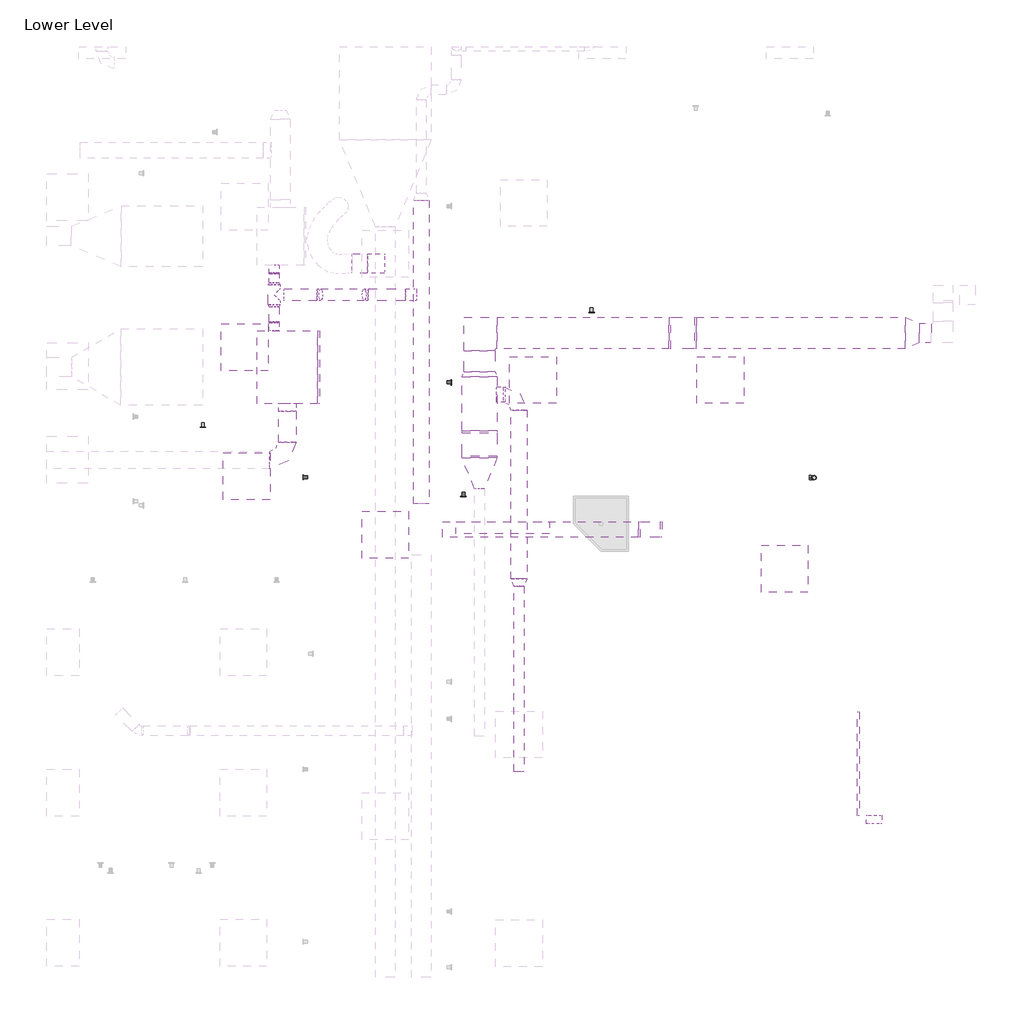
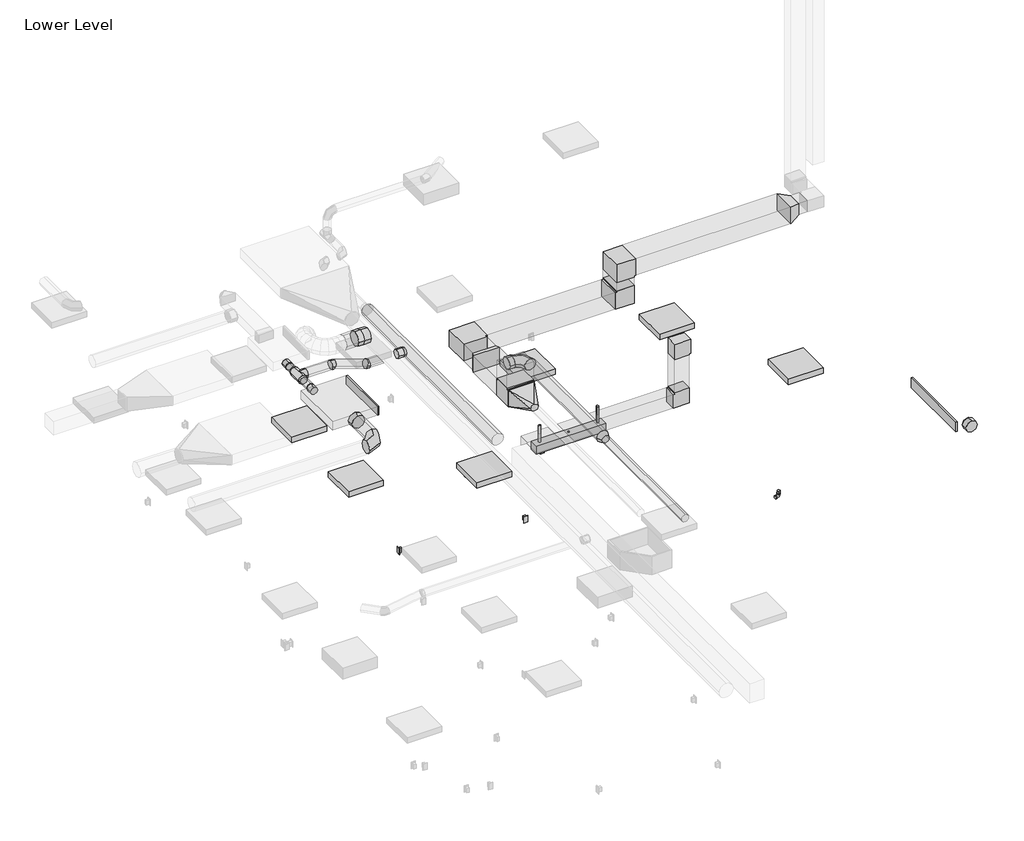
# One storey, part 3 of 5: 26 duct fittings, 20 duct segments, 7 light fixtures, 4 proxies, 3 switching devices, 2 pipe fittings, 2 pipe segments.
"""IFC4 building model written with IfcOpenShell, lengths in millimetres."""

from ifc_helpers import new_model, si_unit, point, frame, frame_2d, origin, place, context, project, spatial, polyline, circle_curve, trimmed, segment, composite_curve, outline, extrude, transform, mapped, element, save
from components import mechanical_equipment_142123ad, duplex_receptacle_countertop_10251bba, rectangular_elbow_mitered_standard_ae316b88, rectangular_elbow_mitered_standard_f09b78ec, rectangular_elbow_mitered_standard_c070aa60, rectangular_endcap_standard_7f0f3a90, rectangular_endcap_standard_3ad2bc23, rectangular_tee_standard_c6e92247, rectangular_transition_angle_45_degree_acf68612, rectangular_transition_angle_45_degree_591ca4bc, rectangular_to_round_transition_angle_45_degree_6a3e0b62, round_elbow_1_d_a253342a, round_elbow_1_d_df495868, round_elbow_1_d_f0624a5f, round_takeoff_standard_db554fbb, round_takeoff_standard_d3b0d0f9, round_takeoff_standard_71c39a53, round_takeoff_standard_1127d77f, round_takeoff_standard_fb854549, round_takeoff_standard_7fe2b2d5, round_takeoff_standard_d952ff4d, round_tee_standard_f7545f24, round_transition_angle_45_degree_f573c4f8, round_transition_angle_45_degree_d7d10bec, suspended_fluorescent_strip_non_hosted_strip_light_1x4_120v_4ea4ccb3, troffer_corner_insert_2x2_3lamp_e67c7f8f, bend_pvc_sch_40_dwv_standard_56513ac6, bend_pvc_sch_40_dwv_standard_1eaeee76

model = new_model("IFC4")

# Units and contexts
model_context = context("Model", 3, world=origin())
ifc_project = project(units=[si_unit("LENGTHUNIT", "METRE", prefix="MILLI")], contexts=[model_context])

# Site, building, storey
site = spatial("IfcSite", under=ifc_project)
building = spatial("IfcBuilding", under=site)
storey = spatial("IfcBuildingStorey", under=building, Name="Lower Level", Elevation=29972.0)

# Proxies
placement = place(None, origin())
mechanical_equipment_shape = mechanical_equipment_142123ad(model_context)
element("IfcBuildingElementProxy", 1, Name="DOAS Supply to Return Connection : DOAS Supply to Return Duct Connection", ObjectType="DOAS Supply to Return Connection : DOAS Supply to Return Duct Connection", at=placement, inside=storey, context=model_context, shape_type="MappedRepresentation", body=[
    mapped(mechanical_equipment_shape, transform((-15051.4068388, 7766.5645797, 33121.6), x_axis=(0.0, -1.0000000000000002, 0.0), y_axis=(1.0000000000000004, 0.0, 0.0), z_axis=(0.0, 0.0, 1.0000000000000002))),
])
element("IfcBuildingElementProxy", 2, Name="DOAS Supply to Return Connection : DOAS Supply to Return Duct Connection", ObjectType="DOAS Supply to Return Connection : DOAS Supply to Return Duct Connection", at=placement, inside=storey, context=model_context, shape_type="MappedRepresentation", body=[
    mapped(mechanical_equipment_shape, transform((-15051.4068388, 7118.1842307, 33121.6), x_axis=(0.0, 1.0000000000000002, 0.0), y_axis=(-1.0000000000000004, 0.0, 0.0), z_axis=(0.0, 0.0, 1.0000000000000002))),
])
duplex_receptacle_countertop_shape = duplex_receptacle_countertop_10251bba(model_context)
element("IfcBuildingElementProxy", 3, Name="Duplex Receptacle : GFCI", ObjectType="Duplex Receptacle : GFCI", at=placement, inside=storey, context=model_context, shape_type="MappedRepresentation", body=[
    mapped(duplex_receptacle_countertop_shape, transform((-10921.2162946, 7255.8695005, 30429.2), x_axis=(1.0, 0.0, 0.0), y_axis=(0.0, 0.0, 1.0), z_axis=(0.0, -1.0, 0.0))),
])
element("IfcBuildingElementProxy", 4, Name="Duplex Receptacle : Standard", ObjectType="Duplex Receptacle : Standard", at=placement, inside=storey, context=model_context, shape_type="MappedRepresentation", body=[
    mapped(duplex_receptacle_countertop_shape, transform((-15979.1685758, 5760.4445005, 30429.2), x_axis=(1.0, 0.0, 0.0), y_axis=(0.0, 0.0, 1.0), z_axis=(0.0, -1.0, 0.0))),
])

# Duct fittings
rectangular_elbow_mitered_standard_shape = rectangular_elbow_mitered_standard_ae316b88(model_context)
element("IfcDuctFitting", 5, ObjectType="Rectangular Elbow - Mitered : Standard", at=placement, inside=storey, context=model_context, shape_type="MappedRepresentation", body=[
    mapped(rectangular_elbow_mitered_standard_shape, transform((-12379.8126806, 6984.6293332, 33121.6), x_axis=(-1.0, 0.0, 0.0), y_axis=(0.0, -1.0, 0.0), z_axis=(0.0, 0.0, 1.0))),
])
rectangular_elbow_mitered_standard_2_shape = rectangular_elbow_mitered_standard_f09b78ec(model_context)
element("IfcDuctFitting", 6, ObjectType="Rectangular Elbow - Mitered : Standard", at=placement, inside=storey, context=model_context, shape_type="MappedRepresentation", body=[
    mapped(rectangular_elbow_mitered_standard_2_shape, transform((-10160.5055151, 4430.1195005, 33807.4), x_axis=(0.0, 0.0, 1.0), y_axis=(1.0, 0.0, 0.0), z_axis=(0.0, 1.0, 0.0))),
])
element("IfcDuctFitting", 7, ObjectType="Rectangular Elbow - Mitered : Standard", at=placement, inside=storey, context=model_context, shape_type="MappedRepresentation", body=[
    mapped(rectangular_elbow_mitered_standard_2_shape, transform((-10160.5055151, 4430.1195005, 32893.0), x_axis=(0.0, 0.0, -1.0), y_axis=(-1.0, 0.0, 0.0), z_axis=(0.0, 1.0, 0.0))),
])
rectangular_elbow_mitered_standard_3_shape = rectangular_elbow_mitered_standard_c070aa60(model_context)
element("IfcDuctFitting", 8, ObjectType="Rectangular Elbow - Mitered : Standard", at=placement, inside=storey, context=model_context, shape_type="MappedRepresentation", body=[
    mapped(rectangular_elbow_mitered_standard_3_shape, transform((-9738.2126806, 6984.6293332, 33121.6), x_axis=(1.0, 0.0, 0.0), y_axis=(0.0, 0.0, 1.0), z_axis=(0.0, -1.0, 0.0))),
])
element("IfcDuctFitting", 9, ObjectType="Rectangular Elbow - Mitered : Standard", at=placement, inside=storey, context=model_context, shape_type="MappedRepresentation", body=[
    mapped(rectangular_elbow_mitered_standard_3_shape, transform((-9738.2126806, 6984.6293332, 33629.6), x_axis=(0.0, 0.0, 1.0), y_axis=(1.0, 0.0, 0.0), z_axis=(0.0, 1.0, 0.0))),
])
rectangular_endcap_standard_shape = rectangular_endcap_standard_7f0f3a90(model_context)
element("IfcDuctFitting", 10, ObjectType="Rectangular Endcap : Standard", at=placement, inside=storey, context=model_context, shape_type="MappedRepresentation", body=[
    mapped(rectangular_endcap_standard_shape, transform((-14487.4337032, 6541.2842307, 33121.5384965), x_axis=(1.0, 0.0, 0.0), y_axis=(0.0, 1.0, 0.0), z_axis=(0.0, 0.0, 1.0))),
])
rectangular_endcap_standard_2_shape = rectangular_endcap_standard_3ad2bc23(model_context)
element("IfcDuctFitting", 11, ObjectType="Rectangular Endcap : Standard", at=placement, inside=storey, context=model_context, shape_type="MappedRepresentation", body=[
    mapped(rectangular_endcap_standard_2_shape, transform((-7438.8450089, 1382.1195005, 33617.69375), x_axis=(-1.0, 0.0, 0.0), y_axis=(0.0, -1.0, 0.0), z_axis=(0.0, 0.0, 1.0))),
])
rectangular_tee_standard_shape = rectangular_tee_standard_c6e92247(model_context)
element("IfcDuctFitting", 12, ObjectType="Rectangular Tee : Standard", at=placement, inside=storey, context=model_context, shape_type="MappedRepresentation", body=[
    mapped(rectangular_tee_standard_shape, transform((-12379.8126806, 5536.8293332, 33121.6), x_axis=(0.0, 1.0, 0.0), y_axis=(0.0, 0.0, -1.0), z_axis=(-1.0, 0.0, 0.0))),
])
rectangular_transition_angle_45_degree_shape = rectangular_transition_angle_45_degree_acf68612(model_context)
element("IfcDuctFitting", 13, ObjectType="Rectangular Transition - Angle : 45 Degree", at=placement, inside=storey, context=model_context, shape_type="MappedRepresentation", body=[
    mapped(rectangular_transition_angle_45_degree_shape, transform((-12379.8126806, 6479.8043332, 33121.6), x_axis=(0.0, -1.0, 0.0), y_axis=(1.0, 0.0, 0.0), z_axis=(0.0, 0.0, 1.0))),
])
rectangular_transition_angle_45_degree_2_shape = rectangular_transition_angle_45_degree_591ca4bc(model_context)
element("IfcDuctFitting", 14, ObjectType="Rectangular Transition - Angle : 45 Degree", at=placement, inside=storey, context=model_context, shape_type="MappedRepresentation", body=[
    mapped(rectangular_transition_angle_45_degree_2_shape, transform((-6842.6126806, 6984.6293332, 33629.6), x_axis=(1.0, 0.0, 0.0), y_axis=(0.0, 1.0, 0.0), z_axis=(0.0, 0.0, 1.0))),
])
rectangular_to_round_transition_angle_45_degree_shape = rectangular_to_round_transition_angle_45_degree_6a3e0b62(model_context)
element("IfcDuctFitting", 15, ObjectType="Rectangular to Round Transition - Angle : 45 Degree", at=placement, inside=storey, context=model_context, shape_type="MappedRepresentation", body=[
    mapped(rectangular_to_round_transition_angle_45_degree_shape, transform((-12379.8126806, 5359.0293332, 33121.6), x_axis=(0.0, -1.0, 0.0), y_axis=(0.0, 0.0, 1.0), z_axis=(-1.0, 0.0, 0.0))),
])
round_elbow_1_d_shape = round_elbow_1_d_a253342a(model_context)
element("IfcDuctFitting", 16, ObjectType="Round Elbow : 1 D", at=placement, inside=storey, context=model_context, shape_type="MappedRepresentation", body=[
    mapped(round_elbow_1_d_shape, transform((-11866.4513201, 6182.7195005, 33121.6), x_axis=(0.0, 1.0, 0.0), y_axis=(-1.0, 0.0, 0.0), z_axis=(0.0, 0.0, 1.0))),
])
round_elbow_1_d_2_shape = round_elbow_1_d_df495868(model_context)
element("IfcDuctFitting", 17, ObjectType="Round Elbow : 1 D", at=placement, inside=storey, context=model_context, shape_type="MappedRepresentation", body=[
    mapped(round_elbow_1_d_2_shape, transform((-14881.1337028, 5334.9945005, 33121.6), x_axis=(1.0, 0.0, 0.0), y_axis=(0.0, 1.0, 0.0), z_axis=(0.0, 0.0, 1.0))),
])
round_elbow_1_d_3_shape = round_elbow_1_d_f0624a5f(model_context)
element("IfcDuctFitting", 18, ObjectType="Round Elbow : 1 D", at=placement, inside=storey, context=model_context, shape_type="MappedRepresentation", body=[
    mapped(round_elbow_1_d_3_shape, transform((-14469.5500833, 7481.5106674, 33121.6), x_axis=(1.0, 0.0, 0.0), y_axis=(0.0, 0.0, -1.0), z_axis=(0.0, 1.0, 0.0))),
])
element("IfcDuctFitting", 19, ObjectType="Round Elbow : 1 D", at=placement, inside=storey, context=model_context, shape_type="MappedRepresentation", body=[
    mapped(round_elbow_1_d_3_shape, transform((-13857.8903997, 7481.5106674, 32918.4), x_axis=(0.9490023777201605, 0.0, -0.31526891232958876), y_axis=(0.31526891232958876, 0.0, 0.9490023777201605), z_axis=(0.0, -1.0, 0.0))),
])
round_takeoff_standard_shape = round_takeoff_standard_db554fbb(model_context)
element("IfcDuctFitting", 20, ObjectType="Round Takeoff : Standard", at=placement, inside=storey, context=model_context, shape_type="MappedRepresentation", body=[
    mapped(round_takeoff_standard_shape, transform((-13240.144811, 7481.5106674, 32918.4), x_axis=(-1.0, 0.0, 0.0), y_axis=(0.0, 1.0, 0.0), z_axis=(0.0, 0.0, -1.0))),
])
round_takeoff_standard_2_shape = round_takeoff_standard_d3b0d0f9(model_context)
element("IfcDuctFitting", 21, ObjectType="Round Takeoff : Standard", at=placement, inside=storey, context=model_context, shape_type="MappedRepresentation", body=[
    mapped(round_takeoff_standard_2_shape, transform((-7247.6134283, 704.2570005, 33617.69375), x_axis=(0.0, -1.0, 0.0), y_axis=(-1.0, 0.0, 0.0), z_axis=(0.0, 0.0, -1.0))),
])
round_takeoff_standard_3_shape = round_takeoff_standard_71c39a53(model_context)
element("IfcDuctFitting", 22, ObjectType="Round Takeoff : Standard", at=placement, inside=storey, context=model_context, shape_type="MappedRepresentation", body=[
    mapped(round_takeoff_standard_3_shape, transform((-14881.1337028, 6065.9842307, 33121.6), x_axis=(0.0, -1.0, 0.0), y_axis=(-1.0, 0.0, 0.0), z_axis=(0.0, 0.0, -1.0))),
])
round_takeoff_standard_4_shape = round_takeoff_standard_1127d77f(model_context)
element("IfcDuctFitting", 23, ObjectType="Round Takeoff : Standard", at=placement, inside=storey, context=model_context, shape_type="MappedRepresentation", body=[
    mapped(round_takeoff_standard_4_shape, transform((-12151.2126806, 6182.7195005, 33121.6), x_axis=(1.0, 0.0, 0.0), y_axis=(0.0, -1.0, 0.0), z_axis=(0.0, 0.0, -1.0))),
])
round_takeoff_standard_5_shape = round_takeoff_standard_fb854549(model_context)
element("IfcDuctFitting", 24, ObjectType="Round Takeoff : Standard", at=placement, inside=storey, context=model_context, shape_type="MappedRepresentation", body=[
    mapped(round_takeoff_standard_5_shape, transform((-15051.4068388, 7868.1645797, 33121.6), x_axis=(0.0, -1.0, 0.0), y_axis=(-1.0, 0.0, 0.0), z_axis=(0.0, 0.0, -1.0))),
])
round_takeoff_standard_6_shape = round_takeoff_standard_7fe2b2d5(model_context)
element("IfcDuctFitting", 25, ObjectType="Round Takeoff : Standard", at=placement, inside=storey, context=model_context, shape_type="MappedRepresentation", body=[
    mapped(round_takeoff_standard_6_shape, transform((-15051.4068388, 7016.5842307, 33121.6), x_axis=(0.0, 1.0, 0.0), y_axis=(1.0, 0.0, 0.0), z_axis=(0.0, 0.0, -1.0))),
])
round_takeoff_standard_7_shape = round_takeoff_standard_d952ff4d(model_context)
element("IfcDuctFitting", 26, ObjectType="Round Takeoff : Standard", at=placement, inside=storey, context=model_context, shape_type="MappedRepresentation", body=[
    mapped(round_takeoff_standard_7_shape, transform((-13732.5079603, 7890.6991771, 33125.8664063), x_axis=(-1.0, 0.0, 0.0), y_axis=(0.0, 1.0, 0.0), z_axis=(0.0, 0.0, -1.0))),
])
round_tee_standard_shape = round_tee_standard_f7545f24(model_context)
element("IfcDuctFitting", 27, ObjectType="Round Tee : Standard", at=placement, inside=storey, context=model_context, shape_type="MappedRepresentation", body=[
    mapped(round_tee_standard_shape, transform((-15051.4068388, 7481.5106674, 33121.6), x_axis=(0.0, 1.0, 0.0), y_axis=(-1.0, 0.0, 0.0), z_axis=(0.0, 0.0, 1.0))),
])
round_transition_angle_45_degree_shape = round_transition_angle_45_degree_f573c4f8(model_context)
element("IfcDuctFitting", 28, ObjectType="Round Transition - Angle : 45 Degree", at=placement, inside=storey, context=model_context, shape_type="MappedRepresentation", body=[
    mapped(round_transition_angle_45_degree_shape, transform((-15051.4068388, 7608.5106674, 33121.6), x_axis=(0.0, 1.0, 0.0), y_axis=(-1.0, 0.0, 0.0), z_axis=(0.0, 0.0, 1.0))),
])
element("IfcDuctFitting", 29, ObjectType="Round Transition - Angle : 45 Degree", at=placement, inside=storey, context=model_context, shape_type="MappedRepresentation", body=[
    mapped(round_transition_angle_45_degree_shape, transform((-15051.4068388, 7354.5106674, 33121.6), x_axis=(0.0, -1.0, 0.0), y_axis=(1.0, 0.0, 0.0), z_axis=(0.0, 0.0, 1.0))),
])
round_transition_angle_45_degree_2_shape = round_transition_angle_45_degree_d7d10bec(model_context)
element("IfcDuctFitting", 30, ObjectType="Round Transition - Angle : 45 Degree", at=placement, inside=storey, context=model_context, shape_type="MappedRepresentation", body=[
    mapped(round_transition_angle_45_degree_2_shape, transform((-11866.4513201, 3785.5010372, 33121.6), x_axis=(0.0, -1.0, 0.0), y_axis=(1.0, 0.0, 0.0), z_axis=(0.0, 0.0, 1.0))),
])

# Duct segments
element("IfcDuctSegment", 31, ObjectType="Mitered Elbows / Taps", at=placement, inside=storey, context=model_context, shape_type="SweptSolid", body=[
    extrude(outline(polyline([(-14487.4337032, 7016.5842307), (-14487.4337032, 6065.9842307), (-15274.8337025, 6065.9842307), (-15274.8337025, 7016.5842307), (-14487.4337032, 7016.5842307)])), frame((0.0, 0.0, 33041.6177934), z_axis=(0.0, 0.0, 1.0), x_axis=(1.0, 0.0, 0.0)), (0.0, 0.0, 1.0), 159.8414063),
])
element("IfcDuctSegment", 32, ObjectType="Mitered Elbows / Taps", at=placement, inside=storey, context=model_context, shape_type="SweptSolid", body=[
    extrude(outline(polyline([(-12176.6126806, 6479.8043332), (-12583.0126806, 6479.8043332), (-12583.0126806, 6756.0293332), (-12176.6126806, 6756.0293332), (-12176.6126806, 6479.8043332)])), frame((0.0, 0.0, 32969.2), z_axis=(0.0, 0.0, 1.0), x_axis=(1.0, 0.0, 0.0)), (0.0, 0.0, 1.0), 304.8),
])
element("IfcDuctSegment", 33, ObjectType="Mitered Elbows / Taps", at=placement, inside=storey, context=model_context, shape_type="SweptSolid", body=[
    extrude(outline(polyline([(-12151.2126806, 6781.4293332), (-12151.2126806, 7187.8293332), (-9916.0126806, 7187.8293332), (-9916.0126806, 6781.4293332), (-12151.2126806, 6781.4293332)])), frame((0.0, 0.0, 32969.2), z_axis=(0.0, 0.0, 1.0), x_axis=(1.0, 0.0, 0.0)), (0.0, 0.0, 1.0), 304.8),
])
element("IfcDuctSegment", 34, ObjectType="Mitered Elbows / Taps", at=placement, inside=storey, context=model_context, shape_type="SweptSolid", body=[
    extrude(outline(polyline([(-12151.2126806, 5714.6293332), (-12608.4126806, 5714.6293332), (-12608.4126806, 6418.4833087), (-12151.2126806, 6418.4833087), (-12151.2126806, 5714.6293332)])), frame((0.0, 0.0, 32969.2), z_axis=(0.0, 0.0, 1.0), x_axis=(1.0, 0.0, 0.0)), (0.0, 0.0, 1.0), 304.8),
])
element("IfcDuctSegment", 35, ObjectType="Mitered Elbows / Taps", at=placement, inside=storey, context=model_context, shape_type="SweptSolid", body=[
    extrude(outline(polyline([(-10312.9055151, 4531.7195005), (-10312.9055151, 4328.5195005), (-12859.144811, 4328.5195005), (-12859.144811, 4531.7195005), (-10312.9055151, 4531.7195005)])), frame((0.0, 0.0, 32766.0), z_axis=(0.0, 0.0, 1.0), x_axis=(1.0, 0.0, 0.0)), (0.0, 0.0, 1.0), 254.0),
])
element("IfcDuctSegment", 36, ObjectType="Mitered Elbows / Taps", at=placement, inside=storey, context=model_context, shape_type="SweptSolid", body=[
    extrude(outline(polyline([(-10033.5055151, 4531.7195005), (-10033.5055151, 4328.5195005), (-10287.5055151, 4328.5195005), (-10287.5055151, 4531.7195005), (-10033.5055151, 4531.7195005)])), frame((0.0, 0.0, 33045.4), z_axis=(0.0, 0.0, 1.0), x_axis=(1.0, 0.0, 0.0)), (0.0, 0.0, 1.0), 609.6),
])
element("IfcDuctSegment", 37, ObjectType="Mitered Elbows / Taps", at=placement, inside=storey, context=model_context, shape_type="SweptSolid", body=[
    extrude(outline(polyline([(-9585.8126806, 7187.8293332), (-9585.8126806, 6781.4293332), (-9890.6126806, 6781.4293332), (-9890.6126806, 7187.8293332), (-9585.8126806, 7187.8293332)])), frame((0.0, 0.0, 33299.4), z_axis=(0.0, 0.0, 1.0), x_axis=(1.0, 0.0, 0.0)), (0.0, 0.0, 1.0), 152.4),
])
element("IfcDuctSegment", 38, ObjectType="Mitered Elbows / Taps", at=placement, inside=storey, context=model_context, shape_type="SweptSolid", body=[
    extrude(outline(polyline([(-9560.4126806, 6781.4293332), (-9560.4126806, 7187.8293332), (-6842.6126806, 7187.8293332), (-6842.6126806, 6781.4293332), (-9560.4126806, 6781.4293332)])), frame((0.0, 0.0, 33477.2), z_axis=(0.0, 0.0, 1.0), x_axis=(1.0, 0.0, 0.0)), (0.0, 0.0, 1.0), 304.8),
])
element("IfcDuctSegment", 39, ObjectType="Mitered Elbows / Taps", at=placement, inside=storey, context=model_context, shape_type="SweptSolid", body=[
    extrude(outline(polyline([(-6658.6496071, 6857.6293332), (-6658.6496071, 7111.6293332), (-6499.7126806, 7111.6293332), (-6499.7126806, 6857.6293332), (-6658.6496071, 6857.6293332)])), frame((0.0, 0.0, 33528.0), z_axis=(0.0, 0.0, 1.0), x_axis=(1.0, 0.0, 0.0)), (0.0, 0.0, 1.0), 203.2),
])
element("IfcDuctSegment", 40, ObjectType="Mitered Elbows / Taps", at=placement, inside=storey, context=model_context, shape_type="SweptSolid", body=[
    extrude(outline(polyline([(-12151.2126806, 5384.4293332), (-12608.4126806, 5384.4293332), (-12608.4126806, 5689.2293332), (-12151.2126806, 5689.2293332), (-12151.2126806, 5384.4293332)])), frame((0.0, 0.0, 33299.4), z_axis=(0.0, 0.0, 1.0), x_axis=(1.0, 0.0, 0.0)), (0.0, 0.0, 1.0), 330.2),
])
element("IfcDuctSegment", 41, ObjectType="Taps / Short Radius", at=placement, inside=storey, context=model_context, shape_type="SweptSolid", body=[
    extrude(outline(composite_curve([segment(trimmed(circle_curve(frame_2d((33121.6, -14881.1337028)), 114.3), [point((33121.6, -14995.4337028))], [point((33007.3, -14881.1337028))], False, "CARTESIAN"), True, "CONTINUOUS"), segment(trimmed(circle_curve(frame_2d((33121.6, -14881.1337028)), 114.3), [point((33007.3, -14881.1337028))], [point((33121.6, -14766.8337028))], False, "CARTESIAN"), True, "CONTINUOUS"), segment(trimmed(circle_curve(frame_2d((33121.6, -14881.1337028)), 114.3), [point((33121.6, -14766.8337028))], [point((33235.9, -14881.1337028))], False, "CARTESIAN"), True, "CONTINUOUS"), segment(trimmed(circle_curve(frame_2d((33121.6, -14881.1337028)), 114.3), [point((33235.9, -14881.1337028))], [point((33121.6, -14995.4337028))], False, "CARTESIAN"), True, "CONTINUOUS")], self_intersect=False)), frame((0.0, 5563.5945005, 0.0), z_axis=(0.0, 1.0, 0.0), x_axis=(0.0, 0.0, 1.0)), (0.0, 0.0, 1.0), 400.7897302),
])
element("IfcDuctSegment", 42, ObjectType="Taps / Short Radius", at=placement, inside=storey, context=model_context, shape_type="SweptSolid", body=[
    extrude(outline(composite_curve([segment(trimmed(circle_curve(frame_2d((32918.4, -13138.544811)), 101.6), [point((32918.4, -13240.144811))], [point((32816.8, -13138.544811))], False, "CARTESIAN"), True, "CONTINUOUS"), segment(trimmed(circle_curve(frame_2d((32918.4, -13138.544811)), 101.6), [point((32816.8, -13138.544811))], [point((32918.4, -13036.944811))], False, "CARTESIAN"), True, "CONTINUOUS"), segment(trimmed(circle_curve(frame_2d((32918.4, -13138.544811)), 101.6), [point((32918.4, -13036.944811))], [point((33020.0, -13138.544811))], False, "CARTESIAN"), True, "CONTINUOUS"), segment(trimmed(circle_curve(frame_2d((32918.4, -13138.544811)), 101.6), [point((33020.0, -13138.544811))], [point((32918.4, -13240.144811))], False, "CARTESIAN"), True, "CONTINUOUS")], self_intersect=False)), frame((0.0, 4760.3195005, 0.0), z_axis=(0.0, 1.0, 0.0), x_axis=(0.0, 0.0, 1.0)), (0.0, 0.0, 1.0), 3949.3928002),
])
element("IfcDuctSegment", 43, ObjectType="Taps / Short Radius", at=placement, inside=storey, context=model_context, shape_type="SweptSolid", body=[
    extrude(outline(composite_curve([segment(trimmed(circle_curve(frame_2d((7890.6991771, 33125.8664063)), 127.0), [point((8017.6991771, 33125.8664063))], [point((7890.6991771, 32998.8664063))], False, "CARTESIAN"), True, "CONTINUOUS"), segment(trimmed(circle_curve(frame_2d((7890.6991771, 33125.8664063)), 127.0), [point((7890.6991771, 32998.8664063))], [point((7763.6991771, 33125.8664063))], False, "CARTESIAN"), True, "CONTINUOUS"), segment(trimmed(circle_curve(frame_2d((7890.6991771, 33125.8664063)), 127.0), [point((7763.6991771, 33125.8664063))], [point((7890.6991771, 33252.8664063))], False, "CARTESIAN"), True, "CONTINUOUS"), segment(trimmed(circle_curve(frame_2d((7890.6991771, 33125.8664063)), 127.0), [point((7890.6991771, 33252.8664063))], [point((8017.6991771, 33125.8664063))], False, "CARTESIAN"), True, "CONTINUOUS")], self_intersect=False)), frame((-14037.3079605, 0.0, 0.0), z_axis=(1.0, 0.0, 0.0), x_axis=(0.0, 1.0, 0.0)), (0.0, 0.0, 1.0), 203.2000002),
])
element("IfcDuctSegment", 44, ObjectType="Taps / Short Radius", at=placement, inside=storey, context=model_context, shape_type="SweptSolid", body=[
    extrude(outline(composite_curve([segment(trimmed(circle_curve(frame_2d((33121.6, -15051.4068388)), 63.5), [point((33121.6, -14987.9068388))], [point((33185.1, -15051.4068388))], False, "CARTESIAN"), True, "CONTINUOUS"), segment(trimmed(circle_curve(frame_2d((33121.6, -15051.4068388)), 63.5), [point((33185.1, -15051.4068388))], [point((33121.6, -15114.9068388))], False, "CARTESIAN"), True, "CONTINUOUS"), segment(trimmed(circle_curve(frame_2d((33121.6, -15051.4068388)), 63.5), [point((33121.6, -15114.9068388))], [point((33058.1, -15051.4068388))], False, "CARTESIAN"), True, "CONTINUOUS"), segment(trimmed(circle_curve(frame_2d((33121.6, -15051.4068388)), 63.5), [point((33058.1, -15051.4068388))], [point((33121.6, -14987.9068388))], False, "CARTESIAN"), True, "CONTINUOUS")], self_intersect=False)), frame((0.0, 7639.1711796, 0.0), z_axis=(0.0, 1.0, 0.0), x_axis=(0.0, 0.0, 1.0)), (0.0, 0.0, 1.0), 114.6934001),
])
element("IfcDuctSegment", 45, ObjectType="Taps / Short Radius", at=placement, inside=storey, context=model_context, shape_type="SweptSolid", body=[
    extrude(outline(composite_curve([segment(trimmed(circle_curve(frame_2d((33121.6, -15051.4068388)), 63.5), [point((33121.6, -15114.9068388))], [point((33058.1, -15051.4068388))], False, "CARTESIAN"), True, "CONTINUOUS"), segment(trimmed(circle_curve(frame_2d((33121.6, -15051.4068388)), 63.5), [point((33058.1, -15051.4068388))], [point((33121.6, -14987.9068388))], False, "CARTESIAN"), True, "CONTINUOUS"), segment(trimmed(circle_curve(frame_2d((33121.6, -15051.4068388)), 63.5), [point((33121.6, -14987.9068388))], [point((33185.1, -15051.4068388))], False, "CARTESIAN"), True, "CONTINUOUS"), segment(trimmed(circle_curve(frame_2d((33121.6, -15051.4068388)), 63.5), [point((33185.1, -15051.4068388))], [point((33121.6, -15114.9068388))], False, "CARTESIAN"), True, "CONTINUOUS")], self_intersect=False)), frame((0.0, 7130.8842307, 0.0), z_axis=(0.0, 1.0, 0.0), x_axis=(0.0, 0.0, 1.0)), (0.0, 0.0, 1.0), 192.9659244),
])
element("IfcDuctSegment", 46, ObjectType="Taps / Short Radius", at=placement, inside=storey, context=model_context, shape_type="SweptSolid", body=[
    extrude(outline(composite_curve([segment(trimmed(circle_curve(frame_2d((7481.5106674, 33121.6)), 76.2), [point((7405.3106674, 33121.6))], [point((7481.5106674, 33197.8))], False, "CARTESIAN"), True, "CONTINUOUS"), segment(trimmed(circle_curve(frame_2d((7481.5106674, 33121.6)), 76.2), [point((7481.5106674, 33197.8))], [point((7557.7106674, 33121.6))], False, "CARTESIAN"), True, "CONTINUOUS"), segment(trimmed(circle_curve(frame_2d((7481.5106674, 33121.6)), 76.2), [point((7557.7106674, 33121.6))], [point((7481.5106674, 33045.4))], False, "CARTESIAN"), True, "CONTINUOUS"), segment(trimmed(circle_curve(frame_2d((7481.5106674, 33121.6)), 76.2), [point((7481.5106674, 33045.4))], [point((7405.3106674, 33121.6))], False, "CARTESIAN"), True, "CONTINUOUS")], self_intersect=False)), frame((-14924.4068388, 0.0, 0.0), z_axis=(1.0, 0.0, 0.0), x_axis=(0.0, 1.0, 0.0)), (0.0, 0.0, 1.0), 430.2046654),
])
element("IfcDuctSegment", 47, ObjectType="Taps / Short Radius", at=placement, inside=storey, context=model_context, shape_type="SweptSolid", body=[
    extrude(outline(composite_curve([segment(trimmed(circle_curve(frame_2d((0.0, -76.2)), 76.2), [point((0.0, -152.4))], [point((-76.1999999, -76.2))], False, "CARTESIAN"), True, "CONTINUOUS"), segment(trimmed(circle_curve(frame_2d((0.0, -76.2)), 76.2), [point((-76.1999999, -76.2))], [point((0.0, 0.0))], False, "CARTESIAN"), True, "CONTINUOUS"), segment(trimmed(circle_curve(frame_2d((0.0, -76.2)), 76.2), [point((0.0, 0.0))], [point((76.2, -76.2))], False, "CARTESIAN"), True, "CONTINUOUS"), segment(trimmed(circle_curve(frame_2d((0.0, -76.2)), 76.2), [point((76.2, -76.2))], [point((0.0, -152.4))], False, "CARTESIAN"), True, "CONTINUOUS")], self_intersect=False)), frame((-13881.2852918, 7557.7106674, 32926.1720376), z_axis=(-0.9490023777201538, 0.0, 0.3152689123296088), x_axis=(0.3152689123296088, 0.0, 0.9490023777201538)), (0.0, 0.0, 1.0), 595.2249568),
])
element("IfcDuctSegment", 48, ObjectType="Taps / Short Radius", at=placement, inside=storey, context=model_context, shape_type="SweptSolid", body=[
    extrude(outline(composite_curve([segment(trimmed(circle_curve(frame_2d((7481.5106674, 32918.4)), 76.2), [point((7405.3106674, 32918.4))], [point((7481.5106674, 32994.6))], False, "CARTESIAN"), True, "CONTINUOUS"), segment(trimmed(circle_curve(frame_2d((7481.5106674, 32918.4)), 76.2), [point((7481.5106674, 32994.6))], [point((7557.7106674, 32918.4))], False, "CARTESIAN"), True, "CONTINUOUS"), segment(trimmed(circle_curve(frame_2d((7481.5106674, 32918.4)), 76.2), [point((7557.7106674, 32918.4))], [point((7481.5106674, 32842.2))], False, "CARTESIAN"), True, "CONTINUOUS"), segment(trimmed(circle_curve(frame_2d((7481.5106674, 32918.4)), 76.2), [point((7481.5106674, 32842.2))], [point((7405.3106674, 32918.4))], False, "CARTESIAN"), True, "CONTINUOUS")], self_intersect=False)), frame((-13833.2383096, 0.0, 0.0), z_axis=(1.0, 0.0, 0.0), x_axis=(0.0, 1.0, 0.0)), (0.0, 0.0, 1.0), 491.4934986),
])
element("IfcDuctSegment", 49, ObjectType="Taps / Short Radius", at=placement, inside=storey, context=model_context, shape_type="SweptSolid", body=[
    extrude(outline(composite_curve([segment(trimmed(circle_curve(frame_2d((33121.6, -11866.4513201)), 101.6), [point((33121.6, -11968.0513201))], [point((33020.0, -11866.4513201))], False, "CARTESIAN"), True, "CONTINUOUS"), segment(trimmed(circle_curve(frame_2d((33121.6, -11866.4513201)), 101.6), [point((33020.0, -11866.4513201))], [point((33121.6, -11764.8513201))], False, "CARTESIAN"), True, "CONTINUOUS"), segment(trimmed(circle_curve(frame_2d((33121.6, -11866.4513201)), 101.6), [point((33121.6, -11764.8513201))], [point((33223.2, -11866.4513201))], False, "CARTESIAN"), True, "CONTINUOUS"), segment(trimmed(circle_curve(frame_2d((33121.6, -11866.4513201)), 101.6), [point((33223.2, -11866.4513201))], [point((33121.6, -11968.0513201))], False, "CARTESIAN"), True, "CONTINUOUS")], self_intersect=False)), frame((0.0, 3785.5010372, 0.0), z_axis=(0.0, 1.0, 0.0), x_axis=(0.0, 0.0, 1.0)), (0.0, 0.0, 1.0), 2194.0184633),
])
element("IfcDuctSegment", 50, ObjectType="Taps / Short Radius", at=placement, inside=storey, context=model_context, shape_type="SweptSolid", body=[
    extrude(outline(composite_curve([segment(trimmed(circle_curve(frame_2d((33121.6, -11866.4513201)), 63.5), [point((33121.6, -11802.9513201))], [point((33185.1, -11866.4513201))], False, "CARTESIAN"), True, "CONTINUOUS"), segment(trimmed(circle_curve(frame_2d((33121.6, -11866.4513201)), 63.5), [point((33185.1, -11866.4513201))], [point((33121.6, -11929.9513201))], False, "CARTESIAN"), True, "CONTINUOUS"), segment(trimmed(circle_curve(frame_2d((33121.6, -11866.4513201)), 63.5), [point((33121.6, -11929.9513201))], [point((33058.1, -11866.4513201))], False, "CARTESIAN"), True, "CONTINUOUS"), segment(trimmed(circle_curve(frame_2d((33121.6, -11866.4513201)), 63.5), [point((33058.1, -11866.4513201))], [point((33121.6, -11802.9513201))], False, "CARTESIAN"), True, "CONTINUOUS")], self_intersect=False)), frame((0.0, 1280.5195005, 0.0), z_axis=(0.0, 1.0, 0.0), x_axis=(0.0, 0.0, 1.0)), (0.0, 0.0, 1.0), 2413.0),
])

# Light fixtures
suspended_fluorescent_strip_non_hosted_strip_light_1x4_120v_shape = suspended_fluorescent_strip_non_hosted_strip_light_1x4_120v_4ea4ccb3(model_context)
element("IfcLightFixture", 51, ObjectType="Suspended Fluorescent Strip - Non-Hosted : Strip Light 1x4 - 120V Normal", at=placement, inside=storey, context=model_context, shape_type="MappedRepresentation", body=[
    mapped(suspended_fluorescent_strip_non_hosted_strip_light_1x4_120v_shape, transform((-12076.7454607, 4452.3445005, 32715.2), x_axis=(1.0, 0.0, 0.0), y_axis=(0.0, 1.0, 0.0), z_axis=(0.0, 0.0, 1.0))),
])
troffer_corner_insert_2x2_3lamp_shape = troffer_corner_insert_2x2_3lamp_e67c7f8f(model_context)
element("IfcLightFixture", 52, ObjectType="Troffer Corner Insert : 2x2 3Lamp", at=placement, inside=storey, context=model_context, shape_type="MappedRepresentation", body=[
    mapped(troffer_corner_insert_2x2_3lamp_shape, transform((-8409.6204607, 3918.9445005, 30632.4), x_axis=(1.0, 0.0, 0.0), y_axis=(0.0, 1.0, 0.0), z_axis=(0.0, 0.0, 1.0))),
])
element("IfcLightFixture", 53, ObjectType="Troffer Corner Insert : 2x2 3Lamp", at=placement, inside=storey, context=model_context, shape_type="MappedRepresentation", body=[
    mapped(troffer_corner_insert_2x2_3lamp_shape, transform((-11684.6329607, 6373.2195005, 30276.8), x_axis=(1.0, 0.0, 0.0), y_axis=(0.0, 1.0, 0.0), z_axis=(0.0, 0.0, 1.0))),
])
element("IfcLightFixture", 54, ObjectType="Troffer Corner Insert : 2x2 3Lamp", at=placement, inside=storey, context=model_context, shape_type="MappedRepresentation", body=[
    mapped(troffer_corner_insert_2x2_3lamp_shape, transform((-9246.2329607, 6373.2195005, 30276.8), x_axis=(1.0, 0.0, 0.0), y_axis=(0.0, 1.0, 0.0), z_axis=(0.0, 0.0, 1.0))),
])
element("IfcLightFixture", 55, ObjectType="Troffer Corner Insert : 2x2 3Lamp", at=placement, inside=storey, context=model_context, shape_type="MappedRepresentation", body=[
    mapped(troffer_corner_insert_2x2_3lamp_shape, transform((-13605.5079607, 4358.6820005, 30276.8), x_axis=(1.0, 0.0, 0.0), y_axis=(0.0, 1.0, 0.0), z_axis=(0.0, 0.0, 1.0))),
])
element("IfcLightFixture", 56, ObjectType="Troffer Corner Insert : 2x2 3Lamp", at=placement, inside=storey, context=model_context, shape_type="MappedRepresentation", body=[
    mapped(troffer_corner_insert_2x2_3lamp_shape, transform((-15434.3079607, 6797.0820005, 30276.8), x_axis=(1.0, 0.0, 0.0), y_axis=(0.0, 1.0, 0.0), z_axis=(0.0, 0.0, 1.0))),
])
element("IfcLightFixture", 57, ObjectType="Troffer Corner Insert : 2x2 3Lamp", at=placement, inside=storey, context=model_context, shape_type="MappedRepresentation", body=[
    mapped(troffer_corner_insert_2x2_3lamp_shape, transform((-15410.4954607, 5120.6820005, 30276.8), x_axis=(1.0, 0.0, 0.0), y_axis=(0.0, 1.0, 0.0), z_axis=(0.0, 0.0, 1.0))),
])

# Pipe fittings
bend_pvc_sch_40_dwv_standard_shape = bend_pvc_sch_40_dwv_standard_56513ac6(model_context)
element("IfcPipeFitting", 58, ObjectType="Bend - PVC - Sch 40 - DWV : Standard", at=placement, inside=storey, context=model_context, shape_type="MappedRepresentation", body=[
    mapped(bend_pvc_sch_40_dwv_standard_shape, transform((-8025.4654379, 5103.2394799, 29872.317813), x_axis=(0.0, 0.0, -1.0), y_axis=(-1.0, 0.0, 0.0), z_axis=(0.0, 1.0, 0.0))),
])
bend_pvc_sch_40_dwv_standard_2_shape = bend_pvc_sch_40_dwv_standard_1eaeee76(model_context)
element("IfcPipeFitting", 59, ObjectType="Bend - PVC - Sch 40 - DWV : Standard", at=placement, inside=storey, context=model_context, shape_type="MappedRepresentation", body=[
    mapped(bend_pvc_sch_40_dwv_standard_2_shape, transform((-10800.2839028, 4503.0329426, 29872.3037761), x_axis=(0.0, 0.0, -1.0), y_axis=(0.7071067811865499, 0.7071067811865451, 0.0), z_axis=(0.7071067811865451, -0.7071067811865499, 0.0))),
])

# Pipe segments
element("IfcPipeSegment", 60, ObjectType="PVC - DWV", at=placement, inside=storey, context=model_context, shape_type="SweptSolid", body=[
    extrude(outline(composite_curve([segment(trimmed(circle_curve(frame_2d((0.0, -24.209375)), 24.209375), [point((-24.209375, -24.2093682))], [point((6.8e-06, 0.0))], False, "CARTESIAN"), True, "CONTINUOUS"), segment(trimmed(circle_curve(frame_2d((0.0, -24.209375)), 24.209375), [point((6.8e-06, 0.0))], [point((24.209375, -24.2093818))], False, "CARTESIAN"), True, "CONTINUOUS"), segment(trimmed(circle_curve(frame_2d((0.0, -24.209375)), 24.209375), [point((24.209375, -24.2093818))], [point((-6.7e-06, -48.41875))], False, "CARTESIAN"), True, "CONTINUOUS"), segment(trimmed(circle_curve(frame_2d((0.0, -24.209375)), 24.209375), [point((-6.7e-06, -48.41875))], [point((-24.209375, -24.2093682))], False, "CARTESIAN"), True, "CONTINUOUS")], self_intersect=False)), frame((-8025.4654379, 5079.0301083, 29934.204811), z_axis=(0.0005287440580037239, -0.0005288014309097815, 0.9999997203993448), x_axis=(-0.9999998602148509, -2.796006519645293e-07, 0.0005287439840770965)), (0.0, 0.0, 1.0), 37.7823976),
])
element("IfcPipeSegment", 61, ObjectType="PVC - DWV", at=placement, inside=storey, context=model_context, shape_type="SweptSolid", body=[
    extrude(outline(composite_curve([segment(trimmed(circle_curve(frame_2d((-10800.2839028, 4503.0329426)), 30.1625), [point((-10770.1214028, 4503.0329426))], [point((-10800.2839028, 4472.8704426))], False, "CARTESIAN"), True, "CONTINUOUS"), segment(trimmed(circle_curve(frame_2d((-10800.2839028, 4503.0329426)), 30.1625), [point((-10800.2839028, 4472.8704426))], [point((-10830.4464028, 4503.0329426))], False, "CARTESIAN"), True, "CONTINUOUS"), segment(trimmed(circle_curve(frame_2d((-10800.2839028, 4503.0329426)), 30.1625), [point((-10830.4464028, 4503.0329426))], [point((-10800.2839028, 4533.1954426))], False, "CARTESIAN"), True, "CONTINUOUS"), segment(trimmed(circle_curve(frame_2d((-10800.2839028, 4503.0329426)), 30.1625), [point((-10800.2839028, 4533.1954426))], [point((-10770.1214028, 4503.0329426))], False, "CARTESIAN"), True, "CONTINUOUS")], self_intersect=False)), frame((0.0, 0.0, 29950.1039761), z_axis=(0.0, 0.0, 1.0), x_axis=(1.0, 0.0, 0.0)), (0.0, 0.0, 1.0), 21.8960239),
])

# Switching devices
element("IfcSwitchingDevice", 62, ObjectType="Lighting Switches : Single Pole", at=placement, inside=storey, context=model_context, shape_type="MappedRepresentation", body=[
    mapped(duplex_receptacle_countertop_shape, transform((-14673.8954607, 5107.781415, 31191.2), x_axis=(0.0, -1.0, 0.0), y_axis=(0.0, 0.0, 1.0), z_axis=(-1.0, 0.0, 0.0))),
])
element("IfcSwitchingDevice", 63, ObjectType="Lighting Switches : Single Pole", at=placement, inside=storey, context=model_context, shape_type="MappedRepresentation", body=[
    mapped(duplex_receptacle_countertop_shape, transform((-12749.8454607, 6341.2650092, 31191.2), x_axis=(0.0, 1.0, 0.0), y_axis=(0.0, 0.0, 1.0), z_axis=(1.0, 0.0, 0.0))),
])
element("IfcSwitchingDevice", 64, ObjectType="Lighting Switches : Single Pole", at=placement, inside=storey, context=model_context, shape_type="MappedRepresentation", body=[
    mapped(duplex_receptacle_countertop_shape, transform((-12589.7696323, 4858.7445005, 31191.2), x_axis=(1.0, 0.0, 0.0), y_axis=(0.0, 0.0, 1.0), z_axis=(0.0, -1.0, 0.0))),
])

save(model, "model.ifc")
